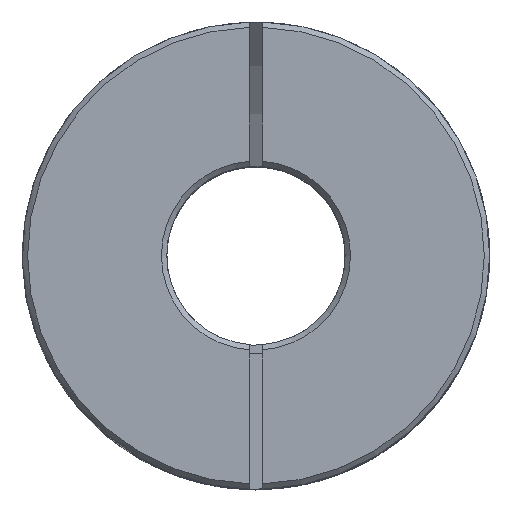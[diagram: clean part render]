
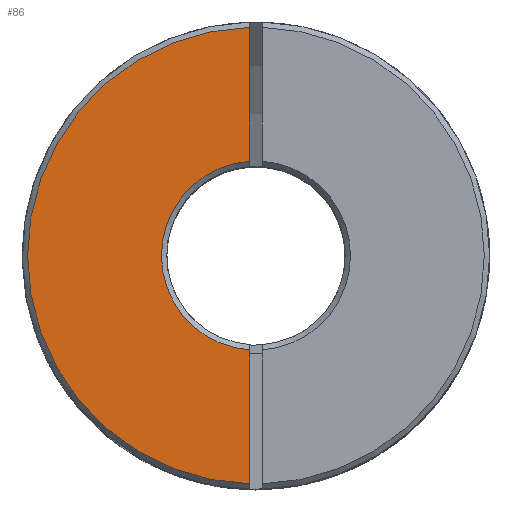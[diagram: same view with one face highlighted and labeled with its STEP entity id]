
A CAD part, top view. The second image highlights one B-rep face of the part: STEP entity #86.
In plain terms, the highlighted planar face has unit normal (0, 0, 1).
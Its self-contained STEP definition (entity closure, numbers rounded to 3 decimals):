
#86 = ADVANCED_FACE( '', ( #161 ), #162, .T. );
#161 = FACE_OUTER_BOUND( '', #303, .T. );
#162 = PLANE( '', #304 );
#303 = EDGE_LOOP( '', ( #534, #535, #536, #537 ) );
#304 = AXIS2_PLACEMENT_3D( '', #538, #539, #540 );
#534 = ORIENTED_EDGE( '', *, *, #868, .T. );
#535 = ORIENTED_EDGE( '', *, *, #887, .T. );
#536 = ORIENTED_EDGE( '', *, *, #888, .T. );
#537 = ORIENTED_EDGE( '', *, *, #889, .T. );
#538 = CARTESIAN_POINT( '', ( -13.1, 0., 11.5 ) );
#539 = DIRECTION( '', ( 0., 0., 1. ) );
#540 = DIRECTION( '', ( 1., 0., 0. ) );
#868 = EDGE_CURVE( '', #1035, #1033, #1036, .T. );
#887 = EDGE_CURVE( '', #1033, #1066, #1067, .T. );
#888 = EDGE_CURVE( '', #1066, #1068, #1069, .T. );
#889 = EDGE_CURVE( '', #1068, #1035, #1070, .F. );
#1033 = VERTEX_POINT( '', #1561 );
#1035 = VERTEX_POINT( '', #1566 );
#1036 = LINE( '', #1567, #1568 );
#1066 = VERTEX_POINT( '', #1608 );
#1067 = CIRCLE( '', #1609, 12.8 );
#1068 = VERTEX_POINT( '', #1610 );
#1069 = LINE( '', #1611, #1612 );
#1070 = CIRCLE( '', #1613, 5.3 );
#1561 = CARTESIAN_POINT( '', ( -0.35, 12.795, 11.5 ) );
#1566 = CARTESIAN_POINT( '', ( -0.35, 5.288, 11.5 ) );
#1567 = CARTESIAN_POINT( '', ( -0.35, -13.1, 11.5 ) );
#1568 = VECTOR( '', #1798, 1000. );
#1608 = CARTESIAN_POINT( '', ( -0.35, -12.795, 11.5 ) );
#1609 = AXIS2_PLACEMENT_3D( '', #1836, #1837, #1838 );
#1610 = CARTESIAN_POINT( '', ( -0.35, -5.288, 11.5 ) );
#1611 = CARTESIAN_POINT( '', ( -0.35, -13.1, 11.5 ) );
#1612 = VECTOR( '', #1839, 1000. );
#1613 = AXIS2_PLACEMENT_3D( '', #1840, #1841, #1842 );
#1798 = DIRECTION( '', ( 0., 1., 0. ) );
#1836 = CARTESIAN_POINT( '', ( 0., 0., 11.5 ) );
#1837 = DIRECTION( '', ( 0., 0., 1. ) );
#1838 = DIRECTION( '', ( 1., 0., 0. ) );
#1839 = DIRECTION( '', ( 0., 1., 0. ) );
#1840 = CARTESIAN_POINT( '', ( 0., 0., 11.5 ) );
#1841 = DIRECTION( '', ( 0., 0., 1. ) );
#1842 = DIRECTION( '', ( 1., 0., 0. ) );
